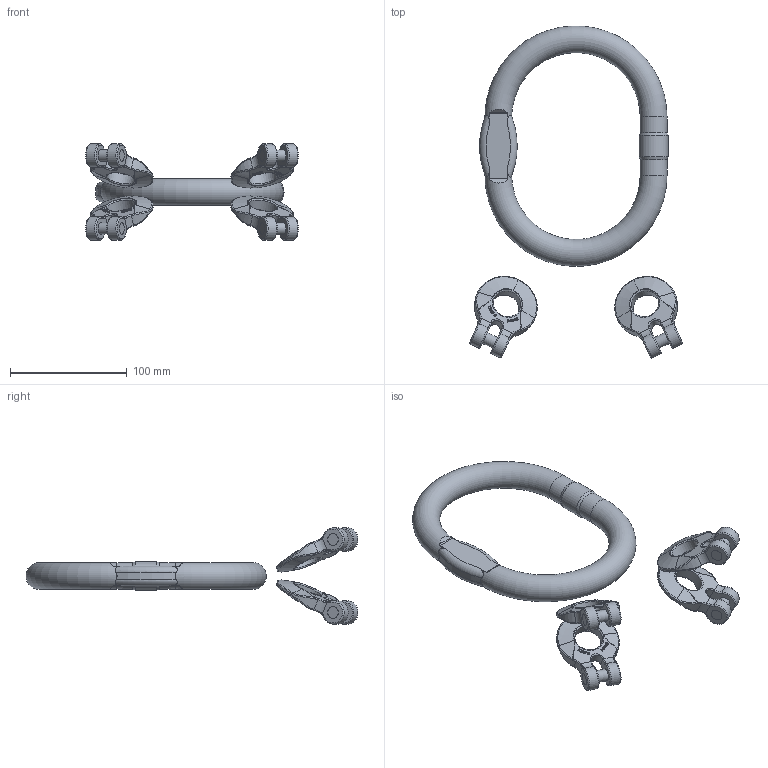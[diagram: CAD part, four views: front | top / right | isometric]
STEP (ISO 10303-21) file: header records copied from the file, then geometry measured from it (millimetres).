
FILE_DESCRIPTION(/* description */ (''),/* implementation_level */ '2;1');
FILE_NAME(/* name */ 'pewag_KMGW_4-8',/* time_stamp */ '2010-03-02T10:37:06+01:00',/* author */ (''),/* organization */ (''),/* preprocessor_version */ 'ST-DEVELOPER v9',/* originating_system */ 'UGS - NX 4.0',/* authorisation */ '');
FILE_SCHEMA (('AUTOMOTIVE_DESIGN { 1 0 10303 214 1 1 1 1 }'));
Length unit declared in the file: millimetre
Products named in the file (1): rit707Bn4vq
Bounding box: 182.27 x 284.34 x 82.48 mm (x, y, z)
Volume: 306877.7 mm3; surface area: 74320.6 mm2
Topology: 9 solids, 9 shells, 1043 faces, 2729 edges, 1766 vertices
Faces by surface type: extrusion 372, plane 362, bspline 112, torus 102, cylinder 93, cone 2
Full cylindrical faces by diameter (mm): 10 x12, 23 x2, 24 x4, 24.725 x1
Entity records: 38873 total; most frequent: CARTESIAN_POINT 16022, ORIENTED_EDGE 5372, DIRECTION 3244, EDGE_CURVE 2686, VERTEX_POINT 1754, B_SPLINE_CURVE_WITH_KNOTS 1684, VECTOR 1368, EDGE_LOOP 1162
